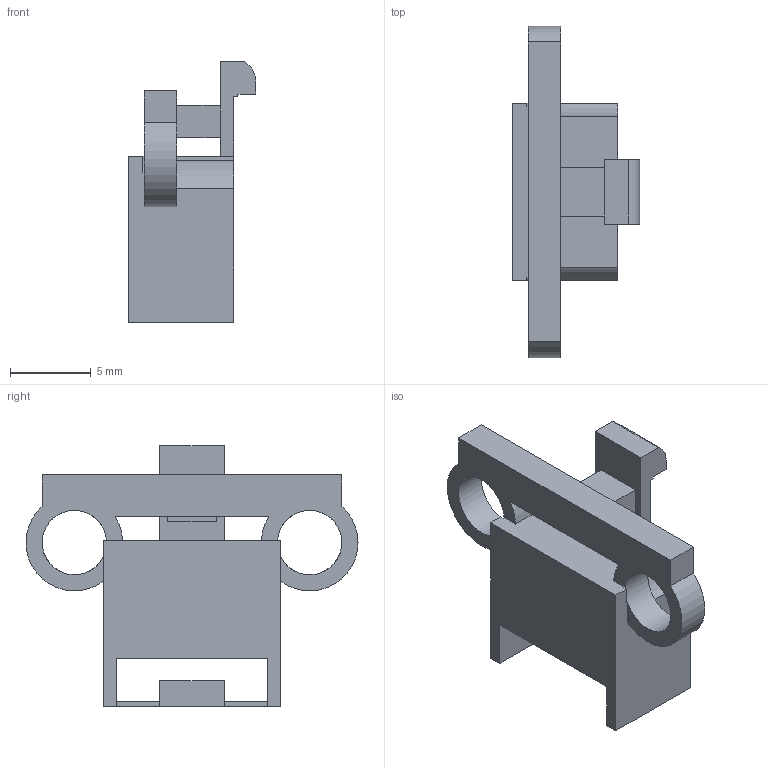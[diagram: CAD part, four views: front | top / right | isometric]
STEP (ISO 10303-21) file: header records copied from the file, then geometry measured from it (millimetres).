
FILE_DESCRIPTION(('Open CASCADE Model'),'2;1');
FILE_NAME('Open CASCADE Shape Model','2026-09-06T11:46:51',('Author'),( 'Open CASCADE'),'Open CASCADE STEP processor 7.7','Open CASCADE 7.7' ,'Unknown');
FILE_SCHEMA(('AUTOMOTIVE_DESIGN { 1 0 10303 214 1 1 1 1 }'));
Length unit declared in the file: millimetre
Products named in the file (1): Open CASCADE STEP translator 7.7 3
Bounding box: 7.9 x 20.6 x 16.15 mm (x, y, z)
Volume: 352.7 mm3; surface area: 962.4 mm2
Topology: 1 solids, 1 shells, 59 faces, 189 edges, 126 vertices
Faces by surface type: plane 48, cylinder 11
Full cylindrical faces by diameter (mm): 4 x2
Entity records: 4454 total; most frequent: CARTESIAN_POINT 954, DIRECTION 567, LINE 380, VECTOR 380, ORIENTED_EDGE 378, PCURVE 378, DEFINITIONAL_REPRESENTATION 378, EDGE_CURVE 189
